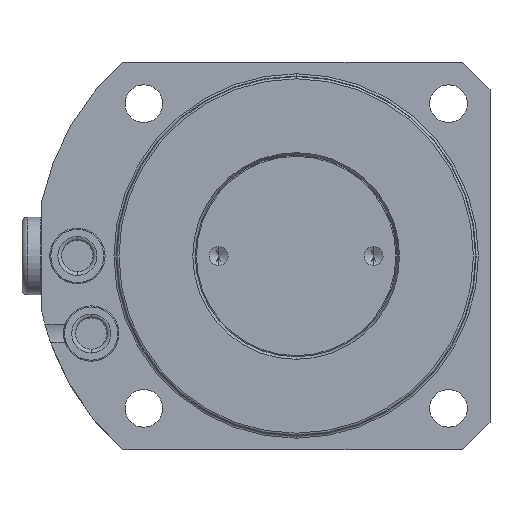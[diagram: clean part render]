
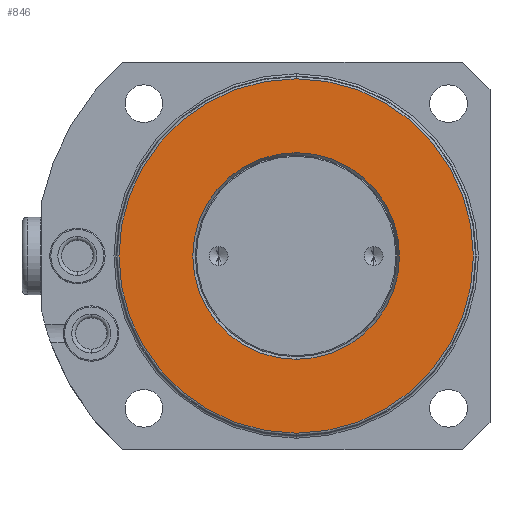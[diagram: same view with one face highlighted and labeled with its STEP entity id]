
A CAD part, front view. The second image highlights one B-rep face of the part: STEP entity #846.
In plain terms, the highlighted planar face has unit normal (0, -1, 0).
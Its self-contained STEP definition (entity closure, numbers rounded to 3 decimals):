
#479=PLANE('',#4918);
#553=FACE_BOUND('',#1469,.T.);
#554=FACE_BOUND('',#1470,.T.);
#846=ADVANCED_FACE('',(#553,#554),#479,.T.);
#1469=EDGE_LOOP('',(#2899,#2900));
#1470=EDGE_LOOP('',(#2901,#2902));
#2899=ORIENTED_EDGE('',*,*,#3968,.T.);
#2900=ORIENTED_EDGE('',*,*,#4027,.T.);
#2901=ORIENTED_EDGE('',*,*,#4026,.F.);
#2902=ORIENTED_EDGE('',*,*,#3972,.F.);
#3440=VERTEX_POINT('',#8023);
#3441=VERTEX_POINT('',#8025);
#3444=VERTEX_POINT('',#8032);
#3445=VERTEX_POINT('',#8034);
#3968=EDGE_CURVE('',#3441,#3440,#4339,.T.);
#3972=EDGE_CURVE('',#3444,#3445,#4342,.T.);
#4026=EDGE_CURVE('',#3445,#3444,#4366,.T.);
#4027=EDGE_CURVE('',#3440,#3441,#4367,.T.);
#4339=CIRCLE('',#4876,32.);
#4342=CIRCLE('',#4880,18.662);
#4366=CIRCLE('',#4915,18.662);
#4367=CIRCLE('',#4917,32.);
#4876=AXIS2_PLACEMENT_3D('',#8024,#6140,#6141);
#4880=AXIS2_PLACEMENT_3D('',#8033,#6149,#6150);
#4915=AXIS2_PLACEMENT_3D('',#8190,#6236,#6237);
#4917=AXIS2_PLACEMENT_3D('',#8192,#6240,#6241);
#4918=AXIS2_PLACEMENT_3D('',#8193,#6242,#6243);
#6140=DIRECTION('',(0.,-1.,0.));
#6141=DIRECTION('',(0.,0.,-1.));
#6149=DIRECTION('',(0.,-1.,0.));
#6150=DIRECTION('',(0.,0.,-1.));
#6236=DIRECTION('',(0.,-1.,0.));
#6237=DIRECTION('',(0.,0.,-1.));
#6240=DIRECTION('',(0.,-1.,0.));
#6241=DIRECTION('',(0.,0.,-1.));
#6242=DIRECTION('',(0.,-1.,0.));
#6243=DIRECTION('',(0.,0.,1.));
#8023=CARTESIAN_POINT('',(0.,1.705,32.));
#8024=CARTESIAN_POINT('',(0.,1.705,0.));
#8025=CARTESIAN_POINT('',(0.,1.705,-32.));
#8032=CARTESIAN_POINT('',(0.,1.705,18.662));
#8033=CARTESIAN_POINT('',(0.,1.705,0.));
#8034=CARTESIAN_POINT('',(0.,1.705,-18.662));
#8190=CARTESIAN_POINT('',(0.,1.705,0.));
#8192=CARTESIAN_POINT('',(0.,1.705,0.));
#8193=CARTESIAN_POINT('',(0.,1.705,0.));
